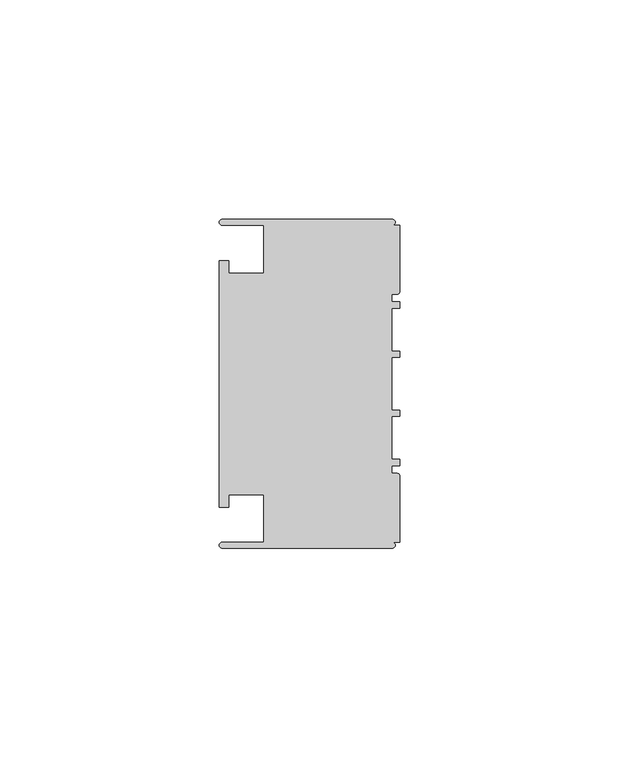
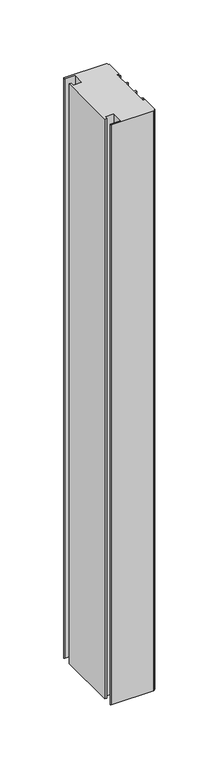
"""IFC4 building model written with IfcOpenShell, lengths in millimetres: member geometry, Прямоугольный импост : 3-AMG-2-Профиль 40Х75 Верх П."""

from ifc_helpers import new_model, si_unit, point, frame, frame_2d, origin, place, context, project, spatial, polyline, circle_curve, trimmed, segment, composite_curve, outline, extrude, source, transform, mapped, element, save


def member_3a6aa04e(model_context):
    return source(origin(), model_context, "Body", "SweptSolid", [
        extrude(outline(composite_curve([segment(polyline([(-1.7, -37.5), (-40.4, -37.5)]), True, "CONTINUOUS"), segment(trimmed(circle_curve(frame_2d((-40.4, -36.8)), 0.7), [point((-40.4, -37.5))], [point((-40.4, -36.1))], False, "CARTESIAN"), True, "CONTINUOUS"), segment(polyline([(-40.4, -36.1), (-31.0, -36.1), (-31.0, -25.25), (-39.0, -25.25), (-39.0, -28.1), (-41.1, -28.1), (-41.1, 28.1), (-39.0, 28.1), (-39.0, 25.25), (-31.0, 25.25), (-31.0, 36.1), (-40.4, 36.1)]), True, "CONTINUOUS"), segment(trimmed(circle_curve(frame_2d((-40.4, 36.8)), 0.7), [point((-40.4, 36.1))], [point((-40.4, 37.5))], False, "CARTESIAN"), True, "CONTINUOUS"), segment(polyline([(-40.4, 37.5), (-1.7, 37.5)]), True, "CONTINUOUS"), segment(trimmed(circle_curve(frame_2d((-1.7, 36.8)), 0.7), [point((-1.7, 37.5))], [point((-1.7, 36.1))], False, "CARTESIAN"), True, "CONTINUOUS"), segment(polyline([(-1.7, 36.1), (0.0, 36.1), (0.0, 20.95)]), True, "CONTINUOUS"), segment(trimmed(circle_curve(frame_2d((-0.5, 20.95)), 0.5), [point((0.0, 20.95))], [point((-0.5, 20.45))], False, "CARTESIAN"), True, "CONTINUOUS"), segment(polyline([(-0.5, 20.45), (-1.8, 20.45), (-1.8, 18.65), (0.0, 18.65), (0.0, 17.25), (-1.8, 17.25), (-1.8, 7.4), (0.0, 7.4), (0.0, 6.0), (-1.8, 6.0), (-1.8, -6.0), (0.0, -6.0), (0.0, -7.4), (-1.8, -7.4), (-1.8, -17.25), (0.0, -17.25), (0.0, -18.65), (-1.8, -18.65), (-1.8, -20.45), (-0.5, -20.45)]), True, "CONTINUOUS"), segment(trimmed(circle_curve(frame_2d((-0.5, -20.95)), 0.5), [point((-0.5, -20.45))], [point((0.0, -20.95))], False, "CARTESIAN"), True, "CONTINUOUS"), segment(polyline([(0.0, -20.95), (0.0, -36.1), (-1.7, -36.1)]), True, "CONTINUOUS"), segment(trimmed(circle_curve(frame_2d((-1.7, -36.8)), 0.7), [point((-1.7, -36.1))], [point((-1.7, -37.5))], False, "CARTESIAN"), True, "CONTINUOUS")], self_intersect=False)), frame((0.0, 0.0, -560.0), z_axis=(0.0, 0.0, 1.0), x_axis=(1.0, 0.0, 0.0)), (0.0, 0.0, 1.0), 560.0),
    ])


if __name__ == "__main__":
    model = new_model("IFC4")
    model_context = context("Model", 3, world=origin())
    ifc_project = project(units=[si_unit("LENGTHUNIT", "METRE", prefix="MILLI")], contexts=[model_context])
    site = spatial("IfcSite", under=ifc_project)
    building = spatial("IfcBuilding", under=site)
    placement = place(None, origin())
    member_shape = member_3a6aa04e(model_context)
    element("IfcMember", 1, ObjectType="Прямоугольный импост : 3-AMG-2-Профиль 40Х75 Верх П", at=placement, inside=building, context=model_context, shape_type="MappedRepresentation", body=[
        mapped(member_shape, transform((0.0, 0.0, 0.0), x_axis=(1.0, 0.0, 0.0), y_axis=(0.0, 1.0, 0.0), z_axis=(0.0, 0.0, 1.0))),
    ])
    save(model, "model.ifc")
